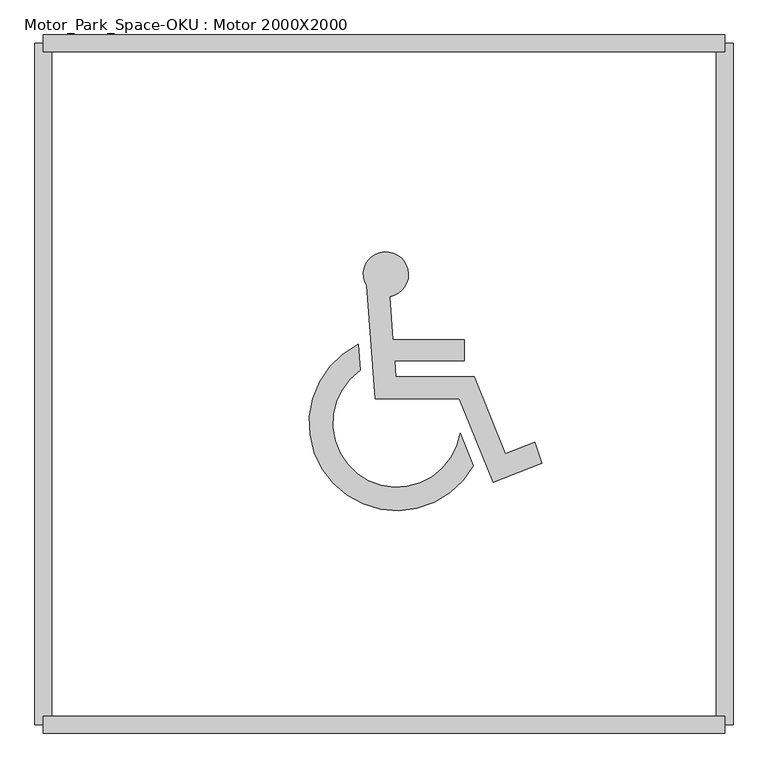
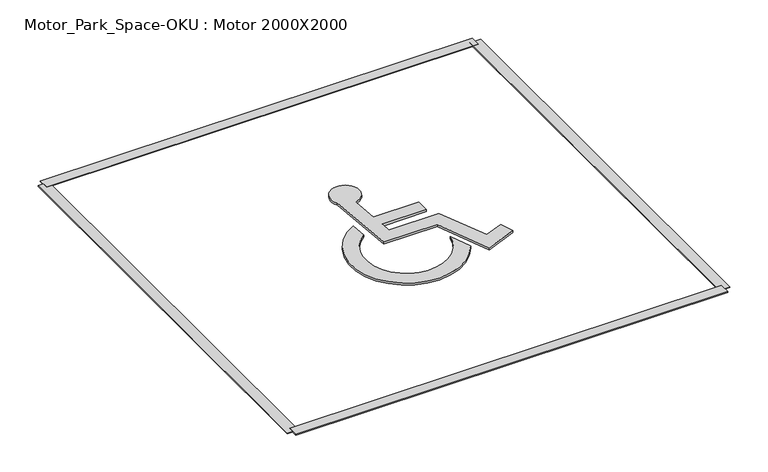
"""IFC4 building model written with IfcOpenShell, lengths in millimetres: proxy geometry, Motor_Park_Space-OKU : Motor 2000X2000."""

from ifc_helpers import new_model, si_unit, point, frame_2d, origin, origin_with_axes, place, context, project, spatial, polyline, circle_curve, trimmed, segment, composite_curve, outline, extrude, source, transform, mapped, element, save


def motor_park_space_oku_motor_2000x2000_8156fa24(model_context):
    return source(origin(), model_context, "Body", "SweptSolid", [
        extrude(outline(composite_curve([segment(trimmed(circle_curve(frame_2d((1037.7222674, -1114.7289804)), 257.2702596), [point((1262.7534435, -1239.4244342))], [point((924.563134, -883.6813727))], False, "CARTESIAN"), True, "CONTINUOUS"), segment(polyline([(924.563134, -883.6813727), (930.347523, -959.5688105)]), True, "CONTINUOUS"), segment(trimmed(circle_curve(frame_2d((1037.7222674, -1114.7289804)), 188.6902596), [point((930.347523, -959.5688105))], [point((1224.0788255, -1144.3135589))], True, "CARTESIAN"), True, "CONTINUOUS"), segment(polyline([(1224.0788255, -1144.3135589), (1262.7534435, -1239.4244342)]), True, "CONTINUOUS")], self_intersect=False)), origin_with_axes(), (0.0, 0.0, 1.0), 10.0),
        extrude(outline(composite_curve([segment(polyline([(1320.7002448, -1289.1710376), (1220.9999699, -1043.9823092), (974.1231059, -1043.9823092), (948.8024065, -711.7911274)]), True, "CONTINUOUS"), segment(trimmed(circle_curve(frame_2d((1005.6043949, -678.0944558)), 66.0449209), [point((948.8024065, -711.7911274))], [point((1016.5386145, -743.227968))], False, "CARTESIAN"), True, "CONTINUOUS"), segment(polyline([(1016.5386145, -743.227968), (1026.1998714, -869.9774026), (1235.2428621, -869.9774026), (1235.2428621, -931.6700496), (1030.9022869, -931.6700496), (1034.4970725, -978.8313092), (1264.8390947, -978.8313092), (1356.6547828, -1204.6298017), (1441.9646244, -1170.5205505), (1463.1291965, -1232.2239749), (1320.7002448, -1289.1710376)]), True, "CONTINUOUS")], self_intersect=False)), origin_with_axes(), (0.0, 0.0, 1.0), 10.0),
        extrude(outline(polyline([(2000.0, -1975.0), (2000.0, -2025.0), (0.0, -2025.0), (0.0, -1975.0), (2000.0, -1975.0)])), origin_with_axes(), (0.0, 0.0, 1.0), 3.175),
        extrude(outline(polyline([(2000.0, 25.0), (2000.0, -25.0), (0.0, -25.0), (0.0, 25.0), (2000.0, 25.0)])), origin_with_axes(), (0.0, 0.0, 1.0), 3.175),
        extrude(outline(polyline([(1975.0, 0.0), (2025.0, 0.0), (2025.0, -2000.0), (1975.0, -2000.0), (1975.0, 0.0)])), origin_with_axes(), (0.0, 0.0, 1.0), 3.175),
        extrude(outline(polyline([(-25.0, 0.0), (25.0, 0.0), (25.0, -2000.0), (-25.0, -2000.0), (-25.0, 0.0)])), origin_with_axes(), (0.0, 0.0, 1.0), 3.175),
    ])


if __name__ == "__main__":
    model = new_model("IFC4")
    model_context = context("Model", 3, world=origin())
    ifc_project = project(units=[si_unit("LENGTHUNIT", "METRE", prefix="MILLI")], contexts=[model_context])
    site = spatial("IfcSite", under=ifc_project)
    building = spatial("IfcBuilding", under=site)
    placement = place(None, origin())
    motor_park_space_oku_motor_2000x2000_shape = motor_park_space_oku_motor_2000x2000_8156fa24(model_context)
    element("IfcBuildingElementProxy", 1, Name="Motor_Park_Space-OKU : Motor 2000X2000", ObjectType="Motor_Park_Space-OKU : Motor 2000X2000", at=placement, inside=building, context=model_context, shape_type="MappedRepresentation", body=[
        mapped(motor_park_space_oku_motor_2000x2000_shape, transform((0.0, 0.0, 0.0), x_axis=(1.0, 0.0, 0.0), y_axis=(0.0, 1.0, 0.0), z_axis=(0.0, 0.0, 1.0))),
    ])
    save(model, "model.ifc")
